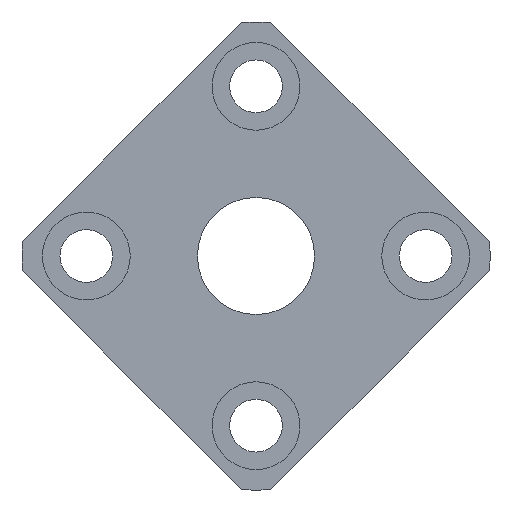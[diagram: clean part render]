
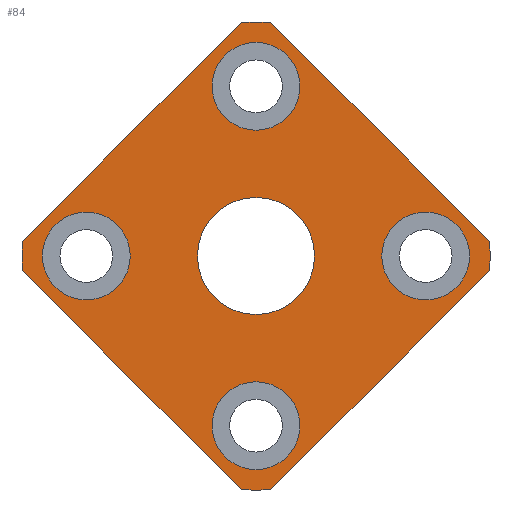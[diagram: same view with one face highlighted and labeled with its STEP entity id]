
A CAD part, left-side view. The second image highlights one B-rep face of the part: STEP entity #84.
In plain terms, the highlighted planar face has unit normal (-1, 0, 0).
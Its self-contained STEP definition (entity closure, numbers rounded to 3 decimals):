
#84 = ADVANCED_FACE( '', ( #125, #126, #127, #128, #129, #130 ), #131, .T. );
#125 = FACE_BOUND( '', #200, .T. );
#126 = FACE_BOUND( '', #201, .T. );
#127 = FACE_OUTER_BOUND( '', #202, .T. );
#128 = FACE_BOUND( '', #203, .T. );
#129 = FACE_BOUND( '', #204, .T. );
#130 = FACE_BOUND( '', #205, .T. );
#131 = PLANE( '', #206 );
#200 = EDGE_LOOP( '', ( #321 ) );
#201 = EDGE_LOOP( '', ( #322 ) );
#202 = EDGE_LOOP( '', ( #323, #324, #325, #326, #327, #328, #329, #330 ) );
#203 = EDGE_LOOP( '', ( #331 ) );
#204 = EDGE_LOOP( '', ( #332 ) );
#205 = EDGE_LOOP( '', ( #333 ) );
#206 = AXIS2_PLACEMENT_3D( '', #334, #335, #336 );
#321 = ORIENTED_EDGE( '', *, *, #444, .T. );
#322 = ORIENTED_EDGE( '', *, *, #434, .T. );
#323 = ORIENTED_EDGE( '', *, *, #445, .F. );
#324 = ORIENTED_EDGE( '', *, *, #430, .F. );
#325 = ORIENTED_EDGE( '', *, *, #419, .F. );
#326 = ORIENTED_EDGE( '', *, *, #427, .F. );
#327 = ORIENTED_EDGE( '', *, *, #415, .F. );
#328 = ORIENTED_EDGE( '', *, *, #429, .F. );
#329 = ORIENTED_EDGE( '', *, *, #423, .F. );
#330 = ORIENTED_EDGE( '', *, *, #443, .F. );
#331 = ORIENTED_EDGE( '', *, *, #446, .T. );
#332 = ORIENTED_EDGE( '', *, *, #447, .T. );
#333 = ORIENTED_EDGE( '', *, *, #448, .T. );
#334 = CARTESIAN_POINT( '', ( 0., 20., 0. ) );
#335 = DIRECTION( '', ( -1., 0., 0. ) );
#336 = DIRECTION( '', ( 0., 0., 1. ) );
#415 = EDGE_CURVE( '', #459, #461, #462, .T. );
#419 = EDGE_CURVE( '', #467, #469, #470, .T. );
#423 = EDGE_CURVE( '', #475, #477, #478, .T. );
#427 = EDGE_CURVE( '', #461, #467, #483, .T. );
#429 = EDGE_CURVE( '', #477, #459, #485, .T. );
#430 = EDGE_CURVE( '', #469, #486, #487, .T. );
#434 = EDGE_CURVE( '', #493, #493, #494, .F. );
#443 = EDGE_CURVE( '', #508, #475, #510, .T. );
#444 = EDGE_CURVE( '', #511, #511, #512, .T. );
#445 = EDGE_CURVE( '', #486, #508, #513, .T. );
#446 = EDGE_CURVE( '', #514, #514, #515, .T. );
#447 = EDGE_CURVE( '', #516, #516, #517, .T. );
#448 = EDGE_CURVE( '', #518, #518, #519, .T. );
#459 = VERTEX_POINT( '', #539 );
#461 = VERTEX_POINT( '', #542 );
#462 = LINE( '', #543, #544 );
#467 = VERTEX_POINT( '', #551 );
#469 = VERTEX_POINT( '', #554 );
#470 = LINE( '', #555, #556 );
#475 = VERTEX_POINT( '', #563 );
#477 = VERTEX_POINT( '', #566 );
#478 = LINE( '', #567, #568 );
#483 = CIRCLE( '', #575, 20. );
#485 = CIRCLE( '', #577, 20. );
#486 = VERTEX_POINT( '', #578 );
#487 = CIRCLE( '', #579, 20. );
#493 = VERTEX_POINT( '', #586 );
#494 = CIRCLE( '', #587, 3.75 );
#508 = VERTEX_POINT( '', #602 );
#510 = CIRCLE( '', #605, 20. );
#511 = VERTEX_POINT( '', #606 );
#512 = CIRCLE( '', #607, 5. );
#513 = LINE( '', #608, #609 );
#514 = VERTEX_POINT( '', #610 );
#515 = CIRCLE( '', #611, 3.75 );
#516 = VERTEX_POINT( '', #612 );
#517 = CIRCLE( '', #613, 3.75 );
#518 = VERTEX_POINT( '', #614 );
#519 = CIRCLE( '', #615, 3.75 );
#539 = CARTESIAN_POINT( '', ( 0., -19.961, -1.252 ) );
#542 = CARTESIAN_POINT( '', ( 0., -1.252, -19.961 ) );
#543 = CARTESIAN_POINT( '', ( 0., -21.213, 0. ) );
#544 = VECTOR( '', #635, 1000. );
#551 = CARTESIAN_POINT( '', ( 0., 1.252, -19.961 ) );
#554 = CARTESIAN_POINT( '', ( 0., 19.961, -1.252 ) );
#555 = CARTESIAN_POINT( '', ( 0., 0., -21.213 ) );
#556 = VECTOR( '', #639, 1000. );
#563 = CARTESIAN_POINT( '', ( 0., -1.252, 19.961 ) );
#566 = CARTESIAN_POINT( '', ( 0., -19.961, 1.252 ) );
#567 = CARTESIAN_POINT( '', ( 0., 0., 21.213 ) );
#568 = VECTOR( '', #643, 1000. );
#575 = AXIS2_PLACEMENT_3D( '', #649, #650, #651 );
#577 = AXIS2_PLACEMENT_3D( '', #655, #656, #657 );
#578 = CARTESIAN_POINT( '', ( 0., 19.961, 1.252 ) );
#579 = AXIS2_PLACEMENT_3D( '', #658, #659, #660 );
#586 = CARTESIAN_POINT( '', ( 0., 14.5, 3.75 ) );
#587 = AXIS2_PLACEMENT_3D( '', #668, #669, #670 );
#602 = CARTESIAN_POINT( '', ( 0., 1.252, 19.961 ) );
#605 = AXIS2_PLACEMENT_3D( '', #691, #692, #693 );
#606 = CARTESIAN_POINT( '', ( 0., 0., -5. ) );
#607 = AXIS2_PLACEMENT_3D( '', #694, #695, #696 );
#608 = CARTESIAN_POINT( '', ( 0., 21.213, 0. ) );
#609 = VECTOR( '', #697, 1000. );
#610 = CARTESIAN_POINT( '', ( 0., 0., 10.75 ) );
#611 = AXIS2_PLACEMENT_3D( '', #698, #699, #700 );
#612 = CARTESIAN_POINT( '', ( 0., 0., -18.25 ) );
#613 = AXIS2_PLACEMENT_3D( '', #701, #702, #703 );
#614 = CARTESIAN_POINT( '', ( 0., -14.5, -3.75 ) );
#615 = AXIS2_PLACEMENT_3D( '', #704, #705, #706 );
#635 = DIRECTION( '', ( 0., 0.707, -0.707 ) );
#639 = DIRECTION( '', ( 0., 0.707, 0.707 ) );
#643 = DIRECTION( '', ( 0., -0.707, -0.707 ) );
#649 = CARTESIAN_POINT( '', ( 0., 0., 0. ) );
#650 = DIRECTION( '', ( 1., 0., 0. ) );
#651 = DIRECTION( '', ( 0., 0., -1. ) );
#655 = CARTESIAN_POINT( '', ( 0., 0., 0. ) );
#656 = DIRECTION( '', ( 1., 0., 0. ) );
#657 = DIRECTION( '', ( 0., 0., -1. ) );
#658 = CARTESIAN_POINT( '', ( 0., 0., 0. ) );
#659 = DIRECTION( '', ( 1., 0., 0. ) );
#660 = DIRECTION( '', ( 0., 0., -1. ) );
#668 = CARTESIAN_POINT( '', ( 0., 14.5, 0. ) );
#669 = DIRECTION( '', ( -1., 0., 0. ) );
#670 = DIRECTION( '', ( 0., 0., 1. ) );
#691 = CARTESIAN_POINT( '', ( 0., 0., 0. ) );
#692 = DIRECTION( '', ( 1., 0., 0. ) );
#693 = DIRECTION( '', ( 0., 0., -1. ) );
#694 = CARTESIAN_POINT( '', ( 0., 0., 0. ) );
#695 = DIRECTION( '', ( 1., 0., 0. ) );
#696 = DIRECTION( '', ( 0., 0., -1. ) );
#697 = DIRECTION( '', ( 0., -0.707, 0.707 ) );
#698 = CARTESIAN_POINT( '', ( 0., 0., 14.5 ) );
#699 = DIRECTION( '', ( 1., 0., 0. ) );
#700 = DIRECTION( '', ( 0., 0., -1. ) );
#701 = CARTESIAN_POINT( '', ( 0., 0., -14.5 ) );
#702 = DIRECTION( '', ( 1., 0., 0. ) );
#703 = DIRECTION( '', ( 0., 0., -1. ) );
#704 = CARTESIAN_POINT( '', ( 0., -14.5, 0. ) );
#705 = DIRECTION( '', ( 1., 0., 0. ) );
#706 = DIRECTION( '', ( 0., 0., -1. ) );
